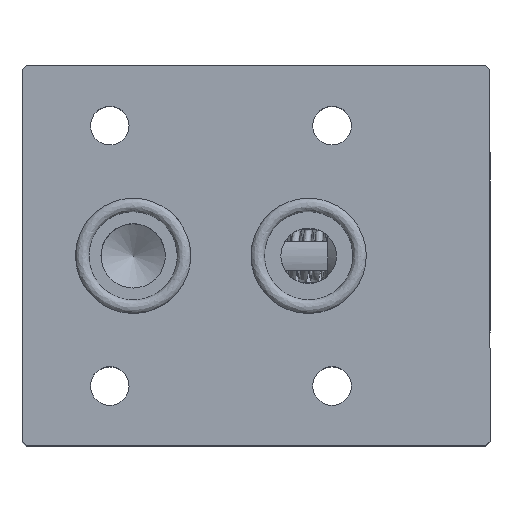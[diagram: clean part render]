
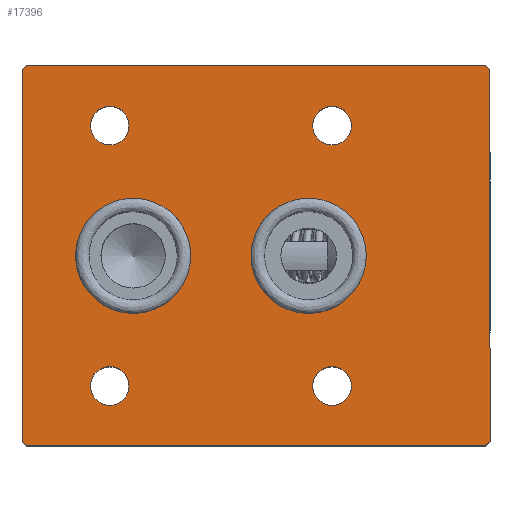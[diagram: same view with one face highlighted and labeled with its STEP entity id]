
A CAD part, top view. The second image highlights one B-rep face of the part: STEP entity #17396.
In plain terms, the highlighted planar face has unit normal (0, 0, 1).
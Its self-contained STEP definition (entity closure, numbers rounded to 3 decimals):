
#108 = EDGE_CURVE ( 'NONE', #2732, #8649, #18606, .T. ) ;
#604 = AXIS2_PLACEMENT_3D ( 'NONE', #23690, #29776, #15929 ) ;
#1210 = CIRCLE ( 'NONE', #2420, 3.3 ) ;
#1299 = ORIENTED_EDGE ( 'NONE', *, *, #108, .T. ) ;
#2369 = DIRECTION ( 'NONE',  ( -1., 0., 0. ) ) ;
#2420 = AXIS2_PLACEMENT_3D ( 'NONE', #19037, #4492, #15715 ) ;
#2498 = LINE ( 'NONE', #24793, #4585 ) ;
#2732 = VERTEX_POINT ( 'NONE', #18804 ) ;
#3325 = DIRECTION ( 'NONE',  ( 0., 0., 1. ) ) ;
#3620 = EDGE_CURVE ( 'NONE', #13474, #13474, #1210, .T. ) ;
#3655 = ORIENTED_EDGE ( 'NONE', *, *, #3620, .T. ) ;
#3972 = CARTESIAN_POINT ( 'NONE',  ( -40., -32.5, 15. ) ) ;
#4137 = FACE_BOUND ( 'NONE', #22677, .T. ) ;
#4192 = VECTOR ( 'NONE', #7571, 1000. ) ;
#4484 = EDGE_LOOP ( 'NONE', ( #12849 ) ) ;
#4492 = DIRECTION ( 'NONE',  ( 0., 0., -1. ) ) ;
#4506 = DIRECTION ( 'NONE',  ( 1., 0., 0. ) ) ;
#4585 = VECTOR ( 'NONE', #27766, 1000. ) ;
#4946 = EDGE_CURVE ( 'NONE', #10727, #10727, #5369, .T. ) ;
#5144 = AXIS2_PLACEMENT_3D ( 'NONE', #5310, #17079, #25018 ) ;
#5234 = CARTESIAN_POINT ( 'NONE',  ( -40., -32.5, 15. ) ) ;
#5310 = CARTESIAN_POINT ( 'NONE',  ( -25., 22.25, 15. ) ) ;
#5369 = CIRCLE ( 'NONE', #11848, 3.3 ) ;
#5531 = ORIENTED_EDGE ( 'NONE', *, *, #19030, .F. ) ;
#5613 = CIRCLE ( 'NONE', #16782, 9.85 ) ;
#5644 = LINE ( 'NONE', #30919, #18505 ) ;
#5861 = LINE ( 'NONE', #17092, #35702 ) ;
#5930 = LINE ( 'NONE', #33608, #15714 ) ;
#6492 = EDGE_LOOP ( 'NONE', ( #13223, #16632, #1299, #14701, #11828, #23070, #14311, #22848 ) ) ;
#6655 = DIRECTION ( 'NONE',  ( -0.707, 0.707, 0. ) ) ;
#7571 = DIRECTION ( 'NONE',  ( 0., 1., 0. ) ) ;
#7665 = CIRCLE ( 'NONE', #604, 3.3 ) ;
#7740 = DIRECTION ( 'NONE',  ( -0.707, -0.707, 0. ) ) ;
#7964 = CARTESIAN_POINT ( 'NONE',  ( -28.3, -22.25, 15. ) ) ;
#8344 = EDGE_CURVE ( 'NONE', #11971, #11971, #34474, .T. ) ;
#8649 = VERTEX_POINT ( 'NONE', #15575 ) ;
#9040 = CARTESIAN_POINT ( 'NONE',  ( 18.85, 0., 15. ) ) ;
#9094 = EDGE_LOOP ( 'NONE', ( #20693 ) ) ;
#9541 = ORIENTED_EDGE ( 'NONE', *, *, #32997, .T. ) ;
#9659 = FACE_BOUND ( 'NONE', #4484, .T. ) ;
#9838 = VERTEX_POINT ( 'NONE', #35179 ) ;
#9949 = CARTESIAN_POINT ( 'NONE',  ( 39.3, 32.5, 15. ) ) ;
#10134 = CARTESIAN_POINT ( 'NONE',  ( 32.15, 39.65, 15. ) ) ;
#10727 = VERTEX_POINT ( 'NONE', #7964 ) ;
#10744 = VERTEX_POINT ( 'NONE', #35288 ) ;
#10992 = DIRECTION ( 'NONE',  ( 0.707, 0.707, 0. ) ) ;
#11656 = VECTOR ( 'NONE', #6655, 1000. ) ;
#11828 = ORIENTED_EDGE ( 'NONE', *, *, #15934, .T. ) ;
#11848 = AXIS2_PLACEMENT_3D ( 'NONE', #28975, #31917, #35042 ) ;
#11971 = VERTEX_POINT ( 'NONE', #26001 ) ;
#12475 = EDGE_CURVE ( 'NONE', #17323, #17323, #22201, .T. ) ;
#12849 = ORIENTED_EDGE ( 'NONE', *, *, #4946, .T. ) ;
#13061 = LINE ( 'NONE', #24311, #33602 ) ;
#13135 = DIRECTION ( 'NONE',  ( 0., 0., 1. ) ) ;
#13223 = ORIENTED_EDGE ( 'NONE', *, *, #24910, .T. ) ;
#13474 = VERTEX_POINT ( 'NONE', #24911 ) ;
#14161 = EDGE_CURVE ( 'NONE', #31979, #9838, #2498, .T. ) ;
#14311 = ORIENTED_EDGE ( 'NONE', *, *, #14161, .T. ) ;
#14522 = ORIENTED_EDGE ( 'NONE', *, *, #12475, .T. ) ;
#14701 = ORIENTED_EDGE ( 'NONE', *, *, #24762, .T. ) ;
#15533 = FACE_BOUND ( 'NONE', #22927, .T. ) ;
#15575 = CARTESIAN_POINT ( 'NONE',  ( 40., 31.8, 15. ) ) ;
#15714 = VECTOR ( 'NONE', #31021, 1000. ) ;
#15715 = DIRECTION ( 'NONE',  ( -1., 0., 0. ) ) ;
#15847 = CARTESIAN_POINT ( 'NONE',  ( 40., 32.5, 15. ) ) ;
#15929 = DIRECTION ( 'NONE',  ( -1., 0., 0. ) ) ;
#15934 = EDGE_CURVE ( 'NONE', #27505, #10744, #5861, .T. ) ;
#16632 = ORIENTED_EDGE ( 'NONE', *, *, #18312, .T. ) ;
#16782 = AXIS2_PLACEMENT_3D ( 'NONE', #20267, #3325, #28235 ) ;
#17079 = DIRECTION ( 'NONE',  ( 0., 0., -1. ) ) ;
#17092 = CARTESIAN_POINT ( 'NONE',  ( -40., 32.5, 15. ) ) ;
#17323 = VERTEX_POINT ( 'NONE', #25822 ) ;
#17396 = ADVANCED_FACE ( 'NONE', ( #4137, #29946, #15533, #29225, #26801, #9659, #32353 ), #19223, .T. ) ;
#18184 = CARTESIAN_POINT ( 'NONE',  ( -39.3, -32.5, 15. ) ) ;
#18312 = EDGE_CURVE ( 'NONE', #29519, #2732, #5644, .T. ) ;
#18505 = VECTOR ( 'NONE', #10992, 1000. ) ;
#18606 = LINE ( 'NONE', #15847, #4192 ) ;
#18804 = CARTESIAN_POINT ( 'NONE',  ( 40., -31.8, 15. ) ) ;
#19030 = EDGE_CURVE ( 'NONE', #28423, #28423, #5613, .T. ) ;
#19037 = CARTESIAN_POINT ( 'NONE',  ( 13., -22.25, 15. ) ) ;
#19092 = AXIS2_PLACEMENT_3D ( 'NONE', #5234, #13135, #22188 ) ;
#19223 = PLANE ( 'NONE',  #19092 ) ;
#20267 = CARTESIAN_POINT ( 'NONE',  ( 9., 0., 15. ) ) ;
#20654 = LINE ( 'NONE', #10134, #11656 ) ;
#20693 = ORIENTED_EDGE ( 'NONE', *, *, #8344, .F. ) ;
#20991 = CARTESIAN_POINT ( 'NONE',  ( -40., 31.8, 15. ) ) ;
#22188 = DIRECTION ( 'NONE',  ( 1., 0., 0. ) ) ;
#22201 = CIRCLE ( 'NONE', #5144, 3.3 ) ;
#22460 = DIRECTION ( 'NONE',  ( 0., 0., 1. ) ) ;
#22677 = EDGE_LOOP ( 'NONE', ( #5531 ) ) ;
#22848 = ORIENTED_EDGE ( 'NONE', *, *, #23107, .T. ) ;
#22927 = EDGE_LOOP ( 'NONE', ( #9541 ) ) ;
#23070 = ORIENTED_EDGE ( 'NONE', *, *, #32223, .T. ) ;
#23107 = EDGE_CURVE ( 'NONE', #9838, #23241, #5930, .T. ) ;
#23241 = VERTEX_POINT ( 'NONE', #18184 ) ;
#23690 = CARTESIAN_POINT ( 'NONE',  ( 13., 22.25, 15. ) ) ;
#24311 = CARTESIAN_POINT ( 'NONE',  ( -72.15, -0.35, 15. ) ) ;
#24762 = EDGE_CURVE ( 'NONE', #8649, #27505, #20654, .T. ) ;
#24793 = CARTESIAN_POINT ( 'NONE',  ( -40., 32.5, 15. ) ) ;
#24910 = EDGE_CURVE ( 'NONE', #23241, #29519, #29767, .T. ) ;
#24911 = CARTESIAN_POINT ( 'NONE',  ( 9.7, -22.25, 15. ) ) ;
#25018 = DIRECTION ( 'NONE',  ( -1., 0., 0. ) ) ;
#25822 = CARTESIAN_POINT ( 'NONE',  ( -28.3, 22.25, 15. ) ) ;
#26001 = CARTESIAN_POINT ( 'NONE',  ( -11.15, 0., 15. ) ) ;
#26801 = FACE_OUTER_BOUND ( 'NONE', #6492, .T. ) ;
#27505 = VERTEX_POINT ( 'NONE', #9949 ) ;
#27766 = DIRECTION ( 'NONE',  ( 0., -1., 0. ) ) ;
#27822 = DIRECTION ( 'NONE',  ( 1., 0., 0. ) ) ;
#28044 = EDGE_LOOP ( 'NONE', ( #3655 ) ) ;
#28179 = VECTOR ( 'NONE', #4506, 1000. ) ;
#28235 = DIRECTION ( 'NONE',  ( 1., 0., 0. ) ) ;
#28423 = VERTEX_POINT ( 'NONE', #9040 ) ;
#28975 = CARTESIAN_POINT ( 'NONE',  ( -25., -22.25, 15. ) ) ;
#29225 = FACE_BOUND ( 'NONE', #29386, .T. ) ;
#29386 = EDGE_LOOP ( 'NONE', ( #14522 ) ) ;
#29519 = VERTEX_POINT ( 'NONE', #32941 ) ;
#29767 = LINE ( 'NONE', #3972, #28179 ) ;
#29776 = DIRECTION ( 'NONE',  ( 0., 0., -1. ) ) ;
#29946 = FACE_BOUND ( 'NONE', #9094, .T. ) ;
#30919 = CARTESIAN_POINT ( 'NONE',  ( -0.35, -72.15, 15. ) ) ;
#31021 = DIRECTION ( 'NONE',  ( 0.707, -0.707, 0. ) ) ;
#31917 = DIRECTION ( 'NONE',  ( 0., 0., -1. ) ) ;
#31979 = VERTEX_POINT ( 'NONE', #20991 ) ;
#32223 = EDGE_CURVE ( 'NONE', #10744, #31979, #13061, .T. ) ;
#32353 = FACE_BOUND ( 'NONE', #28044, .T. ) ;
#32941 = CARTESIAN_POINT ( 'NONE',  ( 39.3, -32.5, 15. ) ) ;
#32997 = EDGE_CURVE ( 'NONE', #35208, #35208, #7665, .T. ) ;
#33602 = VECTOR ( 'NONE', #7740, 1000. ) ;
#33608 = CARTESIAN_POINT ( 'NONE',  ( -39.65, -32.15, 15. ) ) ;
#33728 = CARTESIAN_POINT ( 'NONE',  ( -21., 0., 15. ) ) ;
#34474 = CIRCLE ( 'NONE', #35662, 9.85 ) ;
#35042 = DIRECTION ( 'NONE',  ( -1., 0., 0. ) ) ;
#35179 = CARTESIAN_POINT ( 'NONE',  ( -40., -31.8, 15. ) ) ;
#35208 = VERTEX_POINT ( 'NONE', #35391 ) ;
#35288 = CARTESIAN_POINT ( 'NONE',  ( -39.3, 32.5, 15. ) ) ;
#35391 = CARTESIAN_POINT ( 'NONE',  ( 9.7, 22.25, 15. ) ) ;
#35662 = AXIS2_PLACEMENT_3D ( 'NONE', #33728, #22460, #27822 ) ;
#35702 = VECTOR ( 'NONE', #2369, 1000. ) ;
